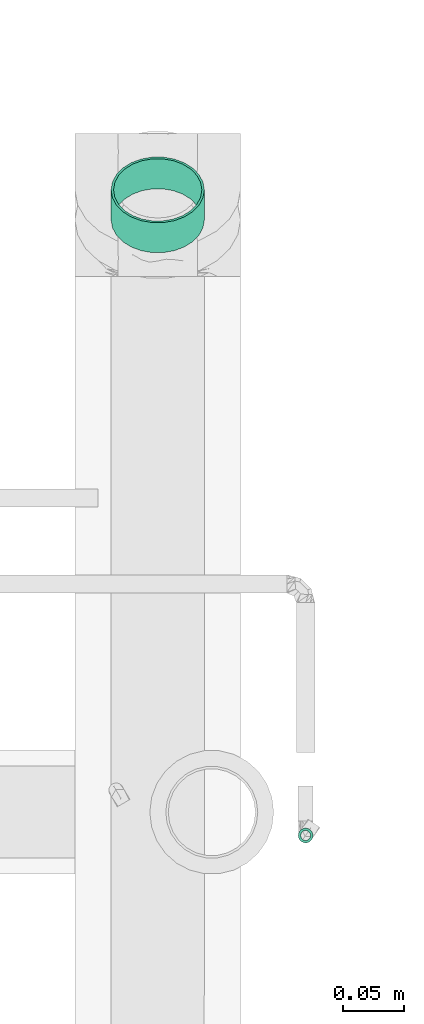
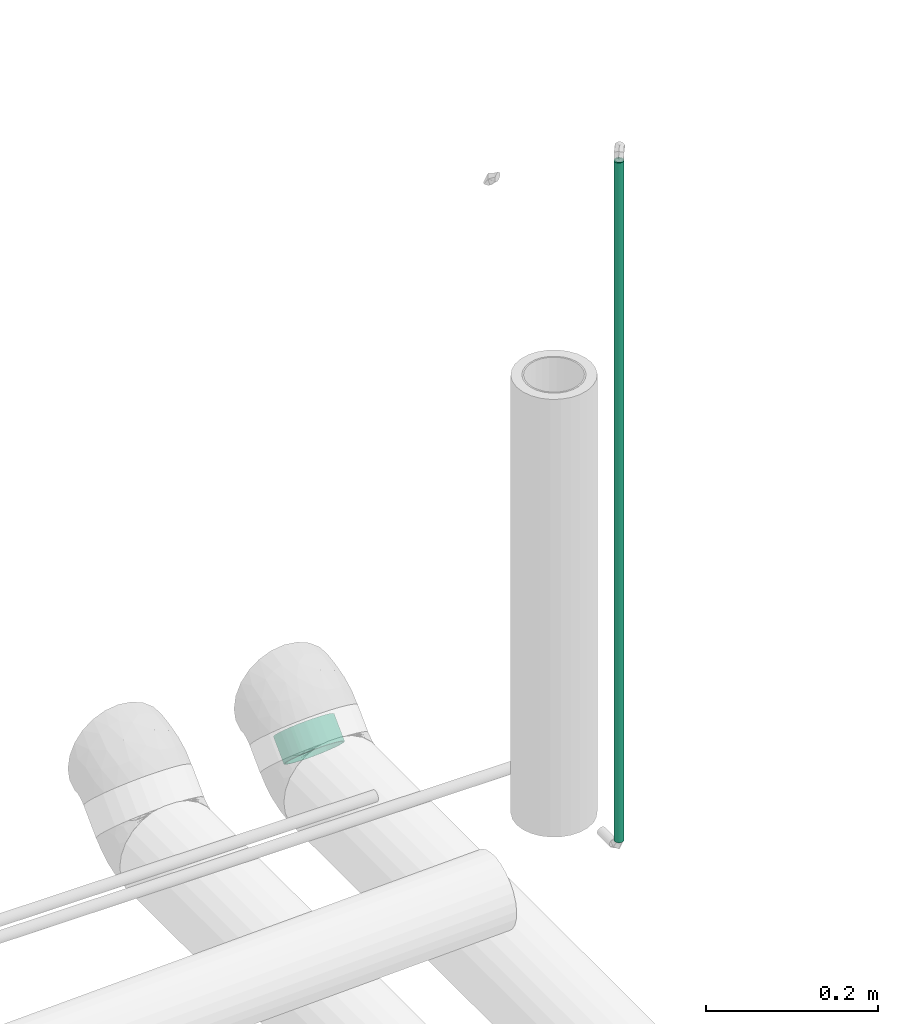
# One storey, part 68 of 156: 2 flow segments.
"""IFC2X3 building model written with IfcOpenShell, lengths in millimetres."""

from ifc_helpers import new_model, entity, si_unit, converted_unit, derived_unit, direction, frame, origin_with_axes, origin_2d_with_axis, place, context, subcontext, project, spatial, hollow_circle, extrude, source, transform, mapped, type_object, element, save


model = new_model("IFC2X3")

# Units and contexts
model_context = context("Model", 3, precision=0.01, world=frame((0.0, 4.29681676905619e-09, 0.0)), true_north=direction((4.01073788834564e-13, 1.0)))
plan_context = context("Plan", 3, precision=0.01, world=frame((0.0, 4.29681676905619e-09, 0.0)), true_north=direction((4.01073788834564e-13, 1.0)))
body_context = subcontext(model_context, "Body", "Model", "MODEL_VIEW")
ifc_project = project(units=[converted_unit("PLANEANGLEUNIT", "DEGREE", entity("IfcPositiveLengthMeasure", 0.0174532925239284), si_unit("PLANEANGLEUNIT", "RADIAN"), dimensions=[0, 0, 0, 0, 0, 0, 0]), si_unit("AREAUNIT", "SQUARE_METRE"), si_unit("LENGTHUNIT", "METRE", prefix="MILLI"), si_unit("MASSUNIT", "GRAM", prefix="KILO"), si_unit("POWERUNIT", "WATT"), si_unit("PRESSUREUNIT", "PASCAL", prefix="KILO"), si_unit("FORCEUNIT", "NEWTON", prefix="KILO"), si_unit("ELECTRICVOLTAGEUNIT", "VOLT"), si_unit("ELECTRICCURRENTUNIT", "AMPERE"), si_unit("THERMODYNAMICTEMPERATUREUNIT", "DEGREE_CELSIUS"), si_unit("TIMEUNIT", "SECOND"), si_unit("VOLUMEUNIT", "CUBIC_METRE"), derived_unit("LINEARVELOCITYUNIT", [(si_unit("LENGTHUNIT", "METRE"), 1), (si_unit("TIMEUNIT", "SECOND"), -1)]), derived_unit("VOLUMETRICFLOWRATEUNIT", [(si_unit("VOLUMEUNIT", "CUBIC_METRE"), 1), (si_unit("TIMEUNIT", "SECOND"), -1)]), derived_unit("THERMALTRANSMITTANCEUNIT", [(si_unit("POWERUNIT", "WATT"), 1), (si_unit("THERMODYNAMICTEMPERATUREUNIT", "KELVIN"), -1), (si_unit("AREAUNIT", "SQUARE_METRE"), -1)]), derived_unit("SOUNDPRESSUREUNIT", [(si_unit("PRESSUREUNIT", "PASCAL"), 1)])], contexts=[model_context, plan_context])

# Site, building, storey
site_placement = place(None, frame((0.0, -4.29681676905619e-09, 0.0), z_axis=(0.0, 0.0, 1.0), x_axis=(1.0, 0.0, 0.0)))
site = spatial("IfcSite", under=ifc_project, at=site_placement, CompositionType="ELEMENT")
building_placement = place(site_placement, frame((0.0, 4.29681676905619e-09, 0.0), z_axis=(0.0, 0.0, 1.0), x_axis=(1.0, 0.0, 0.0)))
building = spatial("IfcBuilding", under=site, at=building_placement, Name="mc-building", CompositionType="ELEMENT")
storey_placement = place(building_placement, frame((0.0, 0.0, 205200.0), z_axis=(0.0, 0.0, 1.0), x_axis=(1.0, 0.0, 0.0)))
storey = spatial("IfcBuildingStorey", under=building, at=storey_placement, Name="Nivå D + 1,2 m", CompositionType="ELEMENT", Elevation=205200.0)

# Flow segments
pipe_segment_type_1 = type_object("IfcPipeSegmentType", Name="Kobberrør", PredefinedType="RIGIDSEGMENT")
shared_shape_1 = source(origin_with_axes(), body_context, "Body", "SweptSolid", [
    extrude(hollow_circle(Radius=6.0, WallThickness=2.0, at=origin_2d_with_axis()), frame((0.0, 0.0, 0.0), z_axis=(1.0, 0.0, 0.0), x_axis=(0.0, 1.0, 0.0)), (0.0, 0.0, 1.0), 967.8),
])
flow_segment_1_placement = place(storey_placement, frame((330440.83415, 462108.63355, 4330.0), z_axis=(1.0, 0.0, 0.0), x_axis=(0.0, 0.0, 1.0)))
element("IfcFlowSegment", 1, at=flow_segment_1_placement, inside=storey, type_object=pipe_segment_type_1, Name="Kobberrør", context=body_context, shape_type="MappedRepresentation", body=[
    mapped(shared_shape_1, transform((0.0, 0.0, 0.0), scale=1.0)),
])
pipe_segment_type_2 = type_object("IfcPipeSegmentType", Name="Stålrør normaltykke", PredefinedType="RIGIDSEGMENT")
shared_shape_2 = source(origin_with_axes(), body_context, "Body", "SweptSolid", [
    extrude(hollow_circle(Radius=38.0, WallThickness=2.0, at=origin_2d_with_axis()), frame((0.0, 0.0, 0.0), z_axis=(1.0, 0.0, 0.0), x_axis=(0.0, 1.0, 0.0)), (0.0, 0.0, 1.0), 34.6),
])
flow_segment_2_placement = place(storey_placement, frame((330320.29357, 462634.90431, 4216.46184999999), z_axis=(-8.29999740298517e-05, -0.70710677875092, 0.70710677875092), x_axis=(-8.30002082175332e-05, -0.707106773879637, -0.707106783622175)))
element("IfcFlowSegment", 2, at=flow_segment_2_placement, inside=storey, type_object=pipe_segment_type_2, Name="Stålrør normaltykke", context=body_context, shape_type="MappedRepresentation", body=[
    mapped(shared_shape_2, transform((0.0, 0.0, 0.0), scale=1.0)),
])

save(model, "model.ifc")
